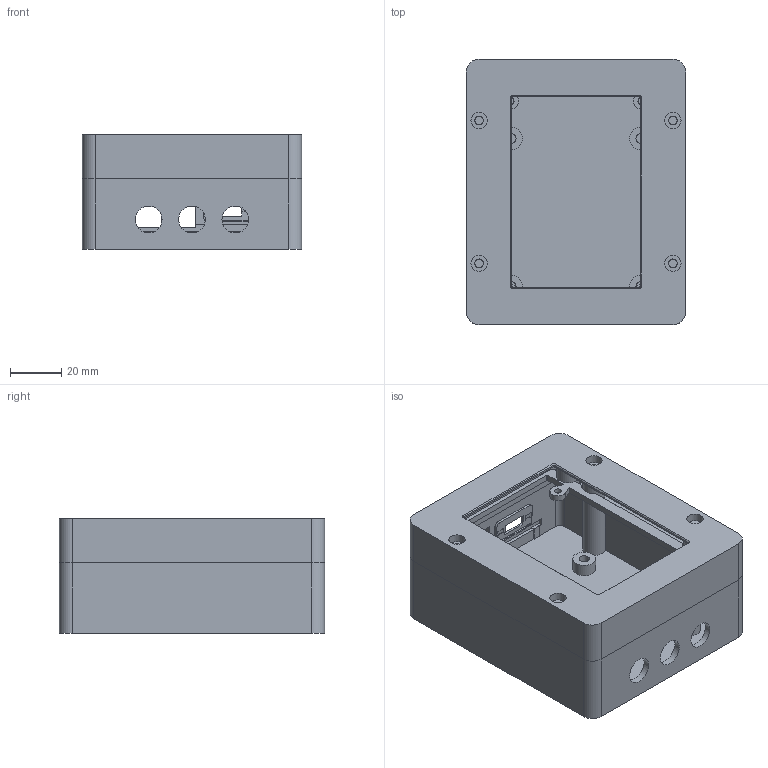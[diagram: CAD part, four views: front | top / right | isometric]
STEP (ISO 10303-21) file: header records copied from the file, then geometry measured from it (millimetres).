
FILE_DESCRIPTION(/* description */ (''),/* implementation_level */ '2;1');
FILE_NAME(/* name */ 'pitclaw-enclosure-r8.step',/* time_stamp */ '2026-09-11T12:41:43-07:00',/* author */ (''),/* organization */ (''),/* preprocessor_version */ 'ST-DEVELOPER v20.1',/* originating_system */ 'Autodesk Translation Framework v15.8.0.0',/* authorisation */ '');
FILE_SCHEMA (('AUTOMOTIVE_DESIGN { 1 0 10303 214 3 1 1 }'));
Length unit declared in the file: centimetre
Products named in the file (4): (Unsaved); 01 Bottom shell; 02 Top bezel - four anchors; 03 WT32 retainer - four anchors
Assembly tree (3 placements, depth 2):
  (Unsaved)
    01 Bottom shell
    02 Top bezel - four anchors
    03 WT32 retainer - four anchors
Bounding box: 86 x 104 x 44.9 mm (x, y, z)
Volume: 83699 mm3; surface area: 70957.7 mm2
Topology: 3 solids, 3 shells, 342 faces, 925 edges, 615 vertices
Faces by surface type: plane 198, cylinder 143, bspline 1
Full cylindrical faces by diameter (mm): 2.8 x4, 3.4 x8, 4 x12, 6.4 x4, 9 x8, 10.5 x3
Entity records: 11283 total; most frequent: CARTESIAN_POINT 2155, DIRECTION 1938, ORIENTED_EDGE 1850, EDGE_CURVE 925, AXIS2_PLACEMENT_3D 668, VERTEX_POINT 615, LINE 602, VECTOR 602
